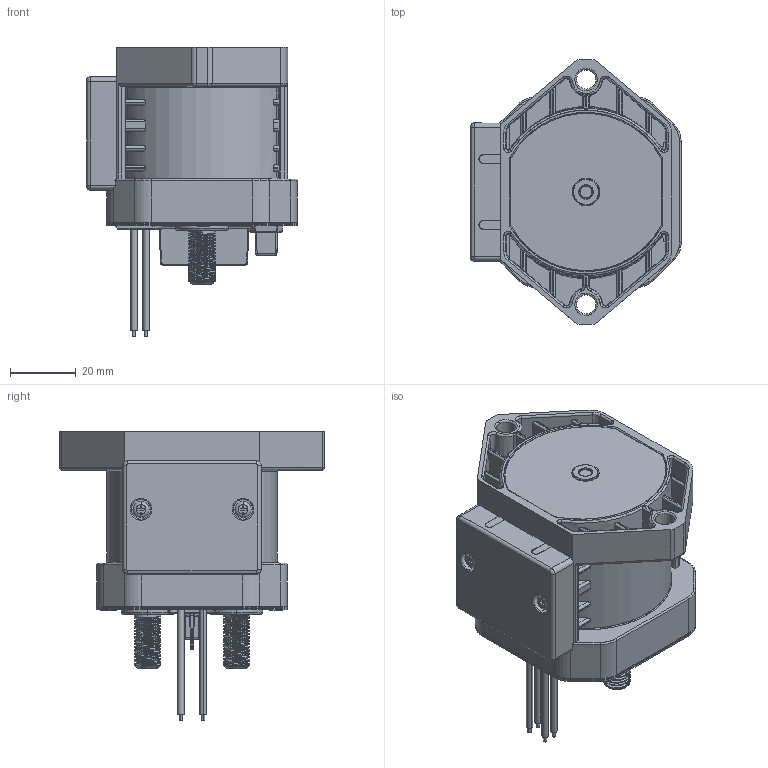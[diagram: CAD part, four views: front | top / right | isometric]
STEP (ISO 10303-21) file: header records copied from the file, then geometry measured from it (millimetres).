
FILE_DESCRIPTION(/* description */ (''),/* implementation_level */ '2;1');
FILE_NAME(/* name */ '3D model of EVD300G.step',/* time_stamp */ '2024-05-27T16:36:53+08:00',/* author */ (''),/* organization */ (''),/* preprocessor_version */ 'ST-DEVELOPER v20',/* originating_system */ 'Autodesk Translation Framework v13.14.0.145',/* authorisation */ '');
FILE_SCHEMA (('AUTOMOTIVE_DESIGN { 1 0 10303 214 3 1 1 }'));
Products named in the file (2): (Unsaved); 3D model of EVD300G
Assembly tree (1 placements, depth 2):
  (Unsaved)
    3D model of EVD300G
Bounding box: 63.9 x 80.5 x 88.08 mm (x, y, z)
Surface area: 52966.7 mm2 (no closed solid volume)
Topology: 0 solids, 1064 shells, 1064 faces, 5367 edges, 5357 vertices
Faces by surface type: cylinder 424, plane 386, torus 134, cone 61, bspline 50, sphere 9
Entity records: 113365 total; most frequent: CARTESIAN_POINT 70725, DIRECTION 8120, VERTEX_POINT 5357, EDGE_CURVE 5357, ORIENTED_EDGE 5357, LINE 2822, VECTOR 2822, AXIS2_PLACEMENT_3D 2649
